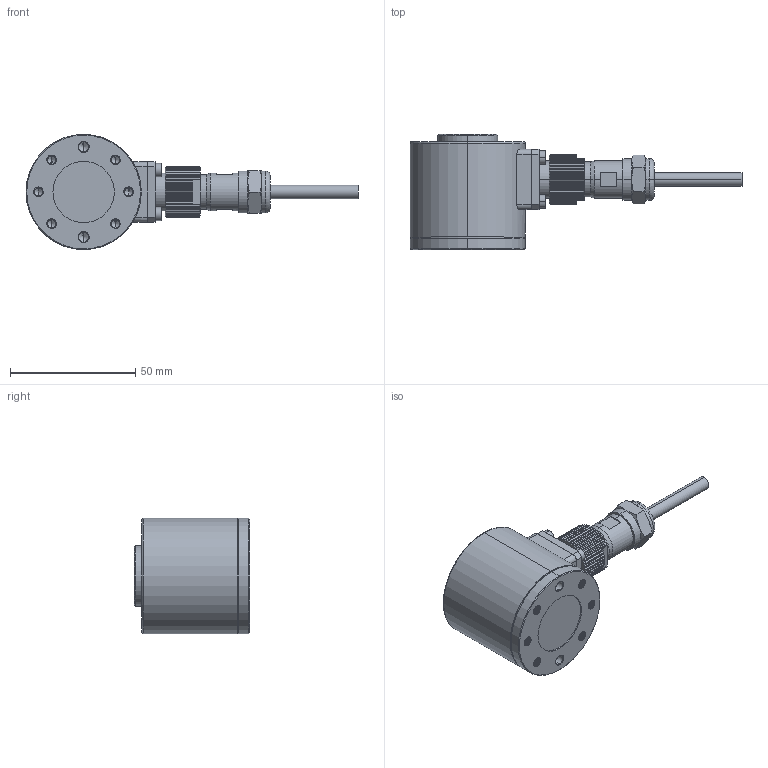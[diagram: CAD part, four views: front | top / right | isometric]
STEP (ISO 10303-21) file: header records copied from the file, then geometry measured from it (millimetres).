
FILE_DESCRIPTION (( 'STEP AP203' ), '1' );
FILE_NAME ('LCM6A.STEP', '2024-11-14T09:39:54', ( '' ), ( '' ), 'SwSTEP 2.0', 'SolidWorks 2019', '' );
FILE_SCHEMA (( 'CONFIG_CONTROL_DESIGN' ));
Length unit declared in the file: millimetre
Products named in the file (1): LCM6A
Bounding box: 132.5 x 46 x 46 mm (x, y, z)
Volume: 85278.8 mm3; surface area: 18554.4 mm2
Topology: 2 solids, 2 shells, 640 faces, 1752 edges, 1122 vertices
Faces by surface type: cylinder 341, plane 190, cone 71, bspline 30, torus 8
Entity records: 54687 total; most frequent: CARTESIAN_POINT 40207, ORIENTED_EDGE 3448, DIRECTION 2478, EDGE_CURVE 1724, VERTEX_POINT 1122, AXIS2_PLACEMENT_3D 909, EDGE_LOOP 674, LINE 660
